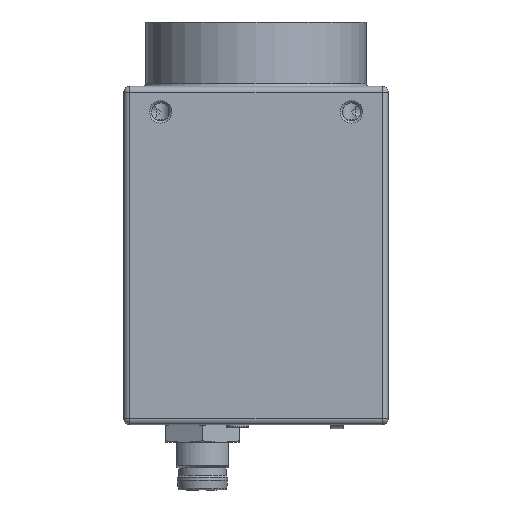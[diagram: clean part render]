
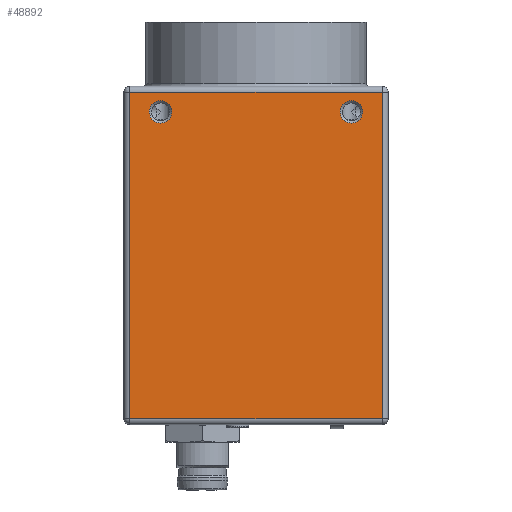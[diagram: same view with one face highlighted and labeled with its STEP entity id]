
A CAD part, left-side view. The second image highlights one B-rep face of the part: STEP entity #48892.
In plain terms, the highlighted planar face has unit normal (-1, 0, 0).
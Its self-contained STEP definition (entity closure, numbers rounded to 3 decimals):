
#1718=CIRCLE('',#52188,1.53);
#1720=CIRCLE('',#52191,1.53);
#5026=LINE('',#72532,#7832);
#5039=LINE('',#72576,#7845);
#5047=LINE('',#72628,#7853);
#5150=LINE('',#73761,#7956);
#7832=VECTOR('',#61365,1000.);
#7845=VECTOR('',#61416,1000.);
#7853=VECTOR('',#61476,1000.);
#7956=VECTOR('',#61837,1000.);
#16790=ORIENTED_EDGE('',*,*,#21851,.T.);
#16791=ORIENTED_EDGE('',*,*,#21849,.T.);
#16792=ORIENTED_EDGE('',*,*,#22119,.T.);
#16793=ORIENTED_EDGE('',*,*,#21868,.T.);
#16794=ORIENTED_EDGE('',*,*,#21847,.T.);
#16795=ORIENTED_EDGE('',*,*,#21891,.T.);
#21847=EDGE_CURVE('',#25331,#25336,#5026,.T.);
#21849=EDGE_CURVE('',#25409,#25409,#1718,.F.);
#21851=EDGE_CURVE('',#25411,#25411,#1720,.F.);
#21868=EDGE_CURVE('',#25420,#25331,#5039,.F.);
#21891=EDGE_CURVE('',#25336,#25437,#5047,.T.);
#22119=EDGE_CURVE('',#25437,#25420,#5150,.T.);
#25331=VERTEX_POINT('',#72258);
#25336=VERTEX_POINT('',#72270);
#25409=VERTEX_POINT('',#72537);
#25411=VERTEX_POINT('',#72542);
#25420=VERTEX_POINT('',#72577);
#25437=VERTEX_POINT('',#72627);
#28628=EDGE_LOOP('',(#16790));
#28629=EDGE_LOOP('',(#16791));
#28630=EDGE_LOOP('',(#16792,#16793,#16794,#16795));
#31371=FACE_BOUND('',#28628,.T.);
#31372=FACE_BOUND('',#28629,.T.);
#31373=FACE_BOUND('',#28630,.T.);
#32765=PLANE('',#52359);
#48892=ADVANCED_FACE('',(#31371,#31372,#31373),#32765,.T.);
#52188=AXIS2_PLACEMENT_3D('',#72536,#61370,#61371);
#52191=AXIS2_PLACEMENT_3D('',#72541,#61376,#61377);
#52359=AXIS2_PLACEMENT_3D('',#73760,#61835,#61836);
#61365=DIRECTION('',(0.,1.,0.));
#61370=DIRECTION('',(-1.,0.,0.));
#61371=DIRECTION('',(0.,0.,1.));
#61376=DIRECTION('',(-1.,0.,0.));
#61377=DIRECTION('',(0.,0.,1.));
#61416=DIRECTION('',(0.,0.,-1.));
#61476=DIRECTION('',(0.,0.,-1.));
#61835=DIRECTION('',(-1.,0.,0.));
#61836=DIRECTION('',(0.,0.,1.));
#61837=DIRECTION('',(0.,-1.,0.));
#72258=CARTESIAN_POINT('',(-18.,-17.2,8.6));
#72270=CARTESIAN_POINT('',(-18.,17.2,8.6));
#72532=CARTESIAN_POINT('',(-18.,14.5,8.6));
#72536=CARTESIAN_POINT('',(-18.,13.,5.9));
#72537=CARTESIAN_POINT('',(-18.,13.,7.43));
#72541=CARTESIAN_POINT('',(-18.,-13.,5.9));
#72542=CARTESIAN_POINT('',(-18.,-13.,7.43));
#72576=CARTESIAN_POINT('',(-18.,-17.2,12.2));
#72577=CARTESIAN_POINT('',(-18.,-17.2,-35.9));
#72627=CARTESIAN_POINT('',(-18.,17.2,-35.9));
#72628=CARTESIAN_POINT('',(-18.,17.2,12.2));
#73760=CARTESIAN_POINT('',(-18.,-14.5,12.2));
#73761=CARTESIAN_POINT('',(-18.,-14.5,-35.9));
